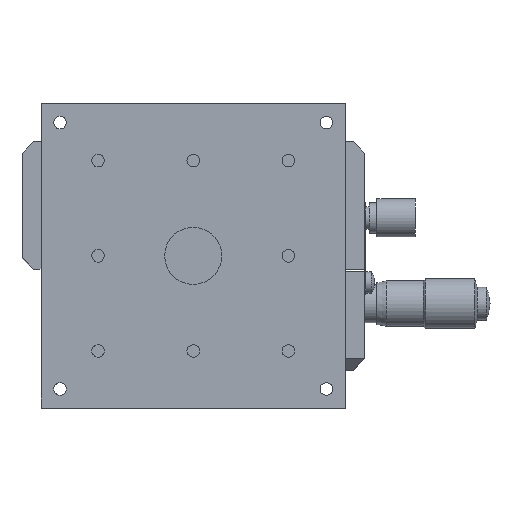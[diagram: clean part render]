
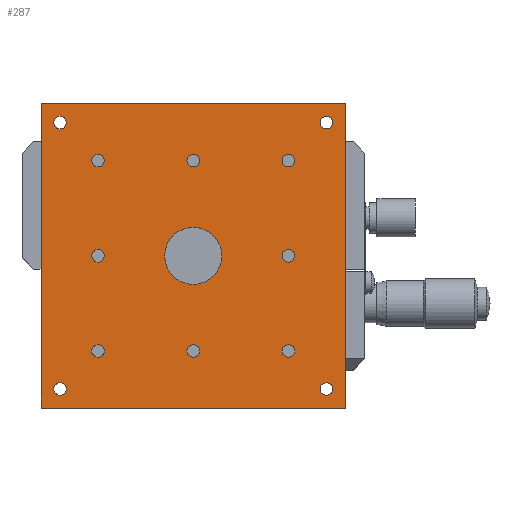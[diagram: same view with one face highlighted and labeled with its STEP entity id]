
A CAD part, top view. The second image highlights one B-rep face of the part: STEP entity #287.
In plain terms, the highlighted planar face has unit normal (0, 0, 1).
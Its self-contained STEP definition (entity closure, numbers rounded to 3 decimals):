
#287 = ADVANCED_FACE( '', ( #685, #686, #687, #688, #689, #690, #691, #692, #693, #694, #695, #696, #697, #698 ), #699, .T. );
#685 = FACE_BOUND( '', #1243, .T. );
#686 = FACE_BOUND( '', #1244, .T. );
#687 = FACE_BOUND( '', #1245, .T. );
#688 = FACE_BOUND( '', #1246, .T. );
#689 = FACE_BOUND( '', #1247, .T. );
#690 = FACE_BOUND( '', #1248, .T. );
#691 = FACE_BOUND( '', #1249, .T. );
#692 = FACE_BOUND( '', #1250, .T. );
#693 = FACE_BOUND( '', #1251, .T. );
#694 = FACE_BOUND( '', #1252, .T. );
#695 = FACE_BOUND( '', #1253, .T. );
#696 = FACE_BOUND( '', #1254, .T. );
#697 = FACE_OUTER_BOUND( '', #1255, .T. );
#698 = FACE_BOUND( '', #1256, .T. );
#699 = PLANE( '', #1257 );
#1243 = EDGE_LOOP( '', ( #1998 ) );
#1244 = EDGE_LOOP( '', ( #1999 ) );
#1245 = EDGE_LOOP( '', ( #2000 ) );
#1246 = EDGE_LOOP( '', ( #2001 ) );
#1247 = EDGE_LOOP( '', ( #2002 ) );
#1248 = EDGE_LOOP( '', ( #2003 ) );
#1249 = EDGE_LOOP( '', ( #2004 ) );
#1250 = EDGE_LOOP( '', ( #2005 ) );
#1251 = EDGE_LOOP( '', ( #2006 ) );
#1252 = EDGE_LOOP( '', ( #2007 ) );
#1253 = EDGE_LOOP( '', ( #2008 ) );
#1254 = EDGE_LOOP( '', ( #2009 ) );
#1255 = EDGE_LOOP( '', ( #2010, #2011, #2012, #2013 ) );
#1256 = EDGE_LOOP( '', ( #2014 ) );
#1257 = AXIS2_PLACEMENT_3D( '', #2015, #2016, #2017 );
#1998 = ORIENTED_EDGE( '', *, *, #3040, .F. );
#1999 = ORIENTED_EDGE( '', *, *, #3041, .F. );
#2000 = ORIENTED_EDGE( '', *, *, #3042, .F. );
#2001 = ORIENTED_EDGE( '', *, *, #3043, .F. );
#2002 = ORIENTED_EDGE( '', *, *, #3044, .F. );
#2003 = ORIENTED_EDGE( '', *, *, #3045, .F. );
#2004 = ORIENTED_EDGE( '', *, *, #3046, .F. );
#2005 = ORIENTED_EDGE( '', *, *, #2835, .F. );
#2006 = ORIENTED_EDGE( '', *, *, #3047, .F. );
#2007 = ORIENTED_EDGE( '', *, *, #3048, .F. );
#2008 = ORIENTED_EDGE( '', *, *, #3049, .F. );
#2009 = ORIENTED_EDGE( '', *, *, #3050, .F. );
#2010 = ORIENTED_EDGE( '', *, *, #2882, .T. );
#2011 = ORIENTED_EDGE( '', *, *, #3051, .F. );
#2012 = ORIENTED_EDGE( '', *, *, #3052, .F. );
#2013 = ORIENTED_EDGE( '', *, *, #3053, .F. );
#2014 = ORIENTED_EDGE( '', *, *, #3054, .T. );
#2015 = CARTESIAN_POINT( '', ( 0., 0., 55. ) );
#2016 = DIRECTION( '', ( 0., 0., 1. ) );
#2017 = DIRECTION( '', ( 1., 0., 0. ) );
#2835 = EDGE_CURVE( '', #3298, #3298, #3299, .T. );
#2882 = EDGE_CURVE( '', #3383, #3381, #3384, .T. );
#3040 = EDGE_CURVE( '', #3644, #3644, #3645, .T. );
#3041 = EDGE_CURVE( '', #3646, #3646, #3647, .T. );
#3042 = EDGE_CURVE( '', #3648, #3648, #3649, .T. );
#3043 = EDGE_CURVE( '', #3650, #3650, #3651, .T. );
#3044 = EDGE_CURVE( '', #3652, #3652, #3653, .T. );
#3045 = EDGE_CURVE( '', #3654, #3654, #3655, .T. );
#3046 = EDGE_CURVE( '', #3656, #3656, #3657, .T. );
#3047 = EDGE_CURVE( '', #3658, #3658, #3659, .T. );
#3048 = EDGE_CURVE( '', #3660, #3660, #3661, .T. );
#3049 = EDGE_CURVE( '', #3662, #3662, #3663, .T. );
#3050 = EDGE_CURVE( '', #3664, #3664, #3665, .T. );
#3051 = EDGE_CURVE( '', #3666, #3381, #3667, .T. );
#3052 = EDGE_CURVE( '', #3668, #3666, #3669, .T. );
#3053 = EDGE_CURVE( '', #3383, #3668, #3670, .T. );
#3054 = EDGE_CURVE( '', #3671, #3671, #3672, .T. );
#3298 = VERTEX_POINT( '', #3986 );
#3299 = CIRCLE( '', #3987, 1.65 );
#3381 = VERTEX_POINT( '', #4091 );
#3383 = VERTEX_POINT( '', #4094 );
#3384 = LINE( '', #4095, #4096 );
#3644 = VERTEX_POINT( '', #4452 );
#3645 = CIRCLE( '', #4453, 1.65 );
#3646 = VERTEX_POINT( '', #4454 );
#3647 = CIRCLE( '', #4455, 1.65 );
#3648 = VERTEX_POINT( '', #4456 );
#3649 = CIRCLE( '', #4457, 1.65 );
#3650 = VERTEX_POINT( '', #4458 );
#3651 = CIRCLE( '', #4459, 1.65 );
#3652 = VERTEX_POINT( '', #4460 );
#3653 = CIRCLE( '', #4461, 1.65 );
#3654 = VERTEX_POINT( '', #4462 );
#3655 = CIRCLE( '', #4463, 1.65 );
#3656 = VERTEX_POINT( '', #4464 );
#3657 = CIRCLE( '', #4465, 1.65 );
#3658 = VERTEX_POINT( '', #4466 );
#3659 = CIRCLE( '', #4467, 1.65 );
#3660 = VERTEX_POINT( '', #4468 );
#3661 = CIRCLE( '', #4469, 1.65 );
#3662 = VERTEX_POINT( '', #4470 );
#3663 = CIRCLE( '', #4471, 1.65 );
#3664 = VERTEX_POINT( '', #4472 );
#3665 = CIRCLE( '', #4473, 1.65 );
#3666 = VERTEX_POINT( '', #4474 );
#3667 = LINE( '', #4475, #4476 );
#3668 = VERTEX_POINT( '', #4477 );
#3669 = LINE( '', #4478, #4479 );
#3670 = LINE( '', #4480, #4481 );
#3671 = VERTEX_POINT( '', #4482 );
#3672 = CIRCLE( '', #4483, 7.5 );
#3986 = CARTESIAN_POINT( '', ( -25., -26.65, 55. ) );
#3987 = AXIS2_PLACEMENT_3D( '', #4868, #4869, #4870 );
#4091 = CARTESIAN_POINT( '', ( 40., 40., 55. ) );
#4094 = CARTESIAN_POINT( '', ( 40., -40., 55. ) );
#4095 = CARTESIAN_POINT( '', ( 40., 0., 55. ) );
#4096 = VECTOR( '', #4933, 1000. );
#4452 = CARTESIAN_POINT( '', ( -25., -1.65, 55. ) );
#4453 = AXIS2_PLACEMENT_3D( '', #5117, #5118, #5119 );
#4454 = CARTESIAN_POINT( '', ( -25., 23.35, 55. ) );
#4455 = AXIS2_PLACEMENT_3D( '', #5120, #5121, #5122 );
#4456 = CARTESIAN_POINT( '', ( 0., 23.35, 55. ) );
#4457 = AXIS2_PLACEMENT_3D( '', #5123, #5124, #5125 );
#4458 = CARTESIAN_POINT( '', ( 25., 23.35, 55. ) );
#4459 = AXIS2_PLACEMENT_3D( '', #5126, #5127, #5128 );
#4460 = CARTESIAN_POINT( '', ( 25., -1.65, 55. ) );
#4461 = AXIS2_PLACEMENT_3D( '', #5129, #5130, #5131 );
#4462 = CARTESIAN_POINT( '', ( 25., -26.65, 55. ) );
#4463 = AXIS2_PLACEMENT_3D( '', #5132, #5133, #5134 );
#4464 = CARTESIAN_POINT( '', ( 0., -26.65, 55. ) );
#4465 = AXIS2_PLACEMENT_3D( '', #5135, #5136, #5137 );
#4466 = CARTESIAN_POINT( '', ( -35., 33.35, 55. ) );
#4467 = AXIS2_PLACEMENT_3D( '', #5138, #5139, #5140 );
#4468 = CARTESIAN_POINT( '', ( 35., 33.35, 55. ) );
#4469 = AXIS2_PLACEMENT_3D( '', #5141, #5142, #5143 );
#4470 = CARTESIAN_POINT( '', ( 35., -36.65, 55. ) );
#4471 = AXIS2_PLACEMENT_3D( '', #5144, #5145, #5146 );
#4472 = CARTESIAN_POINT( '', ( -35., -36.65, 55. ) );
#4473 = AXIS2_PLACEMENT_3D( '', #5147, #5148, #5149 );
#4474 = CARTESIAN_POINT( '', ( -40., 40., 55. ) );
#4475 = CARTESIAN_POINT( '', ( 0., 40., 55. ) );
#4476 = VECTOR( '', #5150, 1000. );
#4477 = CARTESIAN_POINT( '', ( -40., -40., 55. ) );
#4478 = CARTESIAN_POINT( '', ( -40., 0., 55. ) );
#4479 = VECTOR( '', #5151, 1000. );
#4480 = CARTESIAN_POINT( '', ( 0., -40., 55. ) );
#4481 = VECTOR( '', #5152, 1000. );
#4482 = CARTESIAN_POINT( '', ( 0., 7.5, 55. ) );
#4483 = AXIS2_PLACEMENT_3D( '', #5153, #5154, #5155 );
#4868 = CARTESIAN_POINT( '', ( -25., -25., 55. ) );
#4869 = DIRECTION( '', ( 0., 0., 1. ) );
#4870 = DIRECTION( '', ( 0., -1., 0. ) );
#4933 = DIRECTION( '', ( 0., 1., 0. ) );
#5117 = CARTESIAN_POINT( '', ( -25., 0., 55. ) );
#5118 = DIRECTION( '', ( 0., 0., 1. ) );
#5119 = DIRECTION( '', ( 0., -1., 0. ) );
#5120 = CARTESIAN_POINT( '', ( -25., 25., 55. ) );
#5121 = DIRECTION( '', ( 0., 0., 1. ) );
#5122 = DIRECTION( '', ( 0., -1., 0. ) );
#5123 = CARTESIAN_POINT( '', ( 0., 25., 55. ) );
#5124 = DIRECTION( '', ( 0., 0., 1. ) );
#5125 = DIRECTION( '', ( 0., -1., 0. ) );
#5126 = CARTESIAN_POINT( '', ( 25., 25., 55. ) );
#5127 = DIRECTION( '', ( 0., 0., 1. ) );
#5128 = DIRECTION( '', ( 0., -1., 0. ) );
#5129 = CARTESIAN_POINT( '', ( 25., 0., 55. ) );
#5130 = DIRECTION( '', ( 0., 0., 1. ) );
#5131 = DIRECTION( '', ( 0., -1., 0. ) );
#5132 = CARTESIAN_POINT( '', ( 25., -25., 55. ) );
#5133 = DIRECTION( '', ( 0., 0., 1. ) );
#5134 = DIRECTION( '', ( 0., -1., 0. ) );
#5135 = CARTESIAN_POINT( '', ( 0., -25., 55. ) );
#5136 = DIRECTION( '', ( 0., 0., 1. ) );
#5137 = DIRECTION( '', ( 0., -1., 0. ) );
#5138 = CARTESIAN_POINT( '', ( -35., 35., 55. ) );
#5139 = DIRECTION( '', ( 0., 0., 1. ) );
#5140 = DIRECTION( '', ( 0., -1., 0. ) );
#5141 = CARTESIAN_POINT( '', ( 35., 35., 55. ) );
#5142 = DIRECTION( '', ( 0., 0., 1. ) );
#5143 = DIRECTION( '', ( 0., -1., 0. ) );
#5144 = CARTESIAN_POINT( '', ( 35., -35., 55. ) );
#5145 = DIRECTION( '', ( 0., 0., 1. ) );
#5146 = DIRECTION( '', ( 0., -1., 0. ) );
#5147 = CARTESIAN_POINT( '', ( -35., -35., 55. ) );
#5148 = DIRECTION( '', ( 0., 0., 1. ) );
#5149 = DIRECTION( '', ( 0., -1., 0. ) );
#5150 = DIRECTION( '', ( 1., 0., 0. ) );
#5151 = DIRECTION( '', ( 0., 1., 0. ) );
#5152 = DIRECTION( '', ( -1., 0., 0. ) );
#5153 = CARTESIAN_POINT( '', ( 0., 0., 55. ) );
#5154 = DIRECTION( '', ( 0., 0., -1. ) );
#5155 = DIRECTION( '', ( 0., 1., 0. ) );
